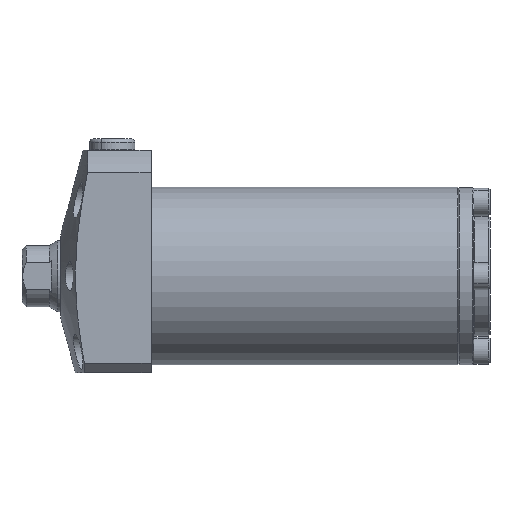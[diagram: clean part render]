
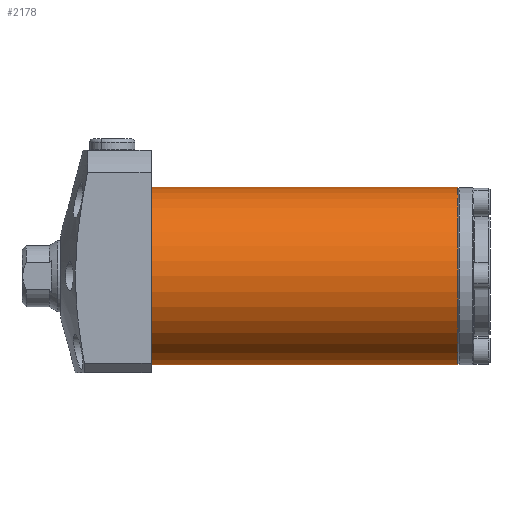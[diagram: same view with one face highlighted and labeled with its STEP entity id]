
A CAD part, left-side view. The second image highlights one B-rep face of the part: STEP entity #2178.
In plain terms, the highlighted cylindrical face has radius 27.5 mm (diameter 55 mm), a partial arc.
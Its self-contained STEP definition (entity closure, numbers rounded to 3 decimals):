
#187 = ORIENTED_EDGE ( 'NONE', *, *, #564, .F. ) ;
#188 = ORIENTED_EDGE ( 'NONE', *, *, #627, .T. ) ;
#189 = ORIENTED_EDGE ( 'NONE', *, *, #566, .T. ) ;
#190 = ORIENTED_EDGE ( 'NONE', *, *, #624, .F. ) ;
#564 = EDGE_CURVE ( 'NONE', #708, #713, #3533, .T. ) ;
#566 = EDGE_CURVE ( 'NONE', #707, #712, #3538, .T. ) ;
#624 = EDGE_CURVE ( 'NONE', #713, #712, #4306, .T. ) ;
#627 = EDGE_CURVE ( 'NONE', #708, #707, #4313, .T. ) ;
#707 = VERTEX_POINT ( 'NONE', #4217 ) ;
#708 = VERTEX_POINT ( 'NONE', #4218 ) ;
#712 = VERTEX_POINT ( 'NONE', #4222 ) ;
#713 = VERTEX_POINT ( 'NONE', #4223 ) ;
#1321 = EDGE_LOOP ( 'NONE', ( #187, #188, #189, #190 ) ) ;
#2178 = ADVANCED_FACE ( 'NONE', ( #6301 ), #6303, .T. ) ;
#2506 = VECTOR ( 'NONE', #3537, 1000. ) ;
#2541 = VECTOR ( 'NONE', #3543, 1000. ) ;
#3527 = CARTESIAN_POINT ( 'NONE',  ( 0., -95., 27.5 ) ) ;
#3529 = CARTESIAN_POINT ( 'NONE',  ( 0., -95., -27.5 ) ) ;
#3533 = LINE ( 'NONE', #3529, #2506 ) ;
#3537 = DIRECTION ( 'NONE',  ( 0., 1., 0. ) ) ;
#3538 = LINE ( 'NONE', #3527, #2541 ) ;
#3543 = DIRECTION ( 'NONE',  ( 0., 1., 0. ) ) ;
#4059 = CARTESIAN_POINT ( 'NONE',  ( 0., 0., 0. ) ) ;
#4060 = DIRECTION ( 'NONE',  ( 0., 1., 0. ) ) ;
#4061 = DIRECTION ( 'NONE',  ( 0., 0., 1. ) ) ;
#4067 = CARTESIAN_POINT ( 'NONE',  ( 0., -95., 0. ) ) ;
#4068 = DIRECTION ( 'NONE',  ( 0., 1., 0. ) ) ;
#4069 = DIRECTION ( 'NONE',  ( 0., 0., 1. ) ) ;
#4217 = CARTESIAN_POINT ( 'NONE',  ( 0., -95., 27.5 ) ) ;
#4218 = CARTESIAN_POINT ( 'NONE',  ( 0., -95., -27.5 ) ) ;
#4222 = CARTESIAN_POINT ( 'NONE',  ( 0., 0., 27.5 ) ) ;
#4223 = CARTESIAN_POINT ( 'NONE',  ( 0., 0., -27.5 ) ) ;
#4306 = CIRCLE ( 'NONE', #4311, 27.5 ) ;
#4311 = AXIS2_PLACEMENT_3D ( 'NONE', #4059, #4060, #4061 ) ;
#4313 = CIRCLE ( 'NONE', #4315, 27.5 ) ;
#4315 = AXIS2_PLACEMENT_3D ( 'NONE', #4067, #4068, #4069 ) ;
#5830 = AXIS2_PLACEMENT_3D ( 'NONE', #6302, #6296, #6304 ) ;
#6296 = DIRECTION ( 'NONE',  ( 0., 1., 0. ) ) ;
#6301 = FACE_OUTER_BOUND ( 'NONE', #1321, .T. ) ;
#6302 = CARTESIAN_POINT ( 'NONE',  ( 0., -95., 0. ) ) ;
#6303 = CYLINDRICAL_SURFACE ( 'NONE', #5830, 27.5 ) ;
#6304 = DIRECTION ( 'NONE',  ( 0., 0., 1. ) ) ;
